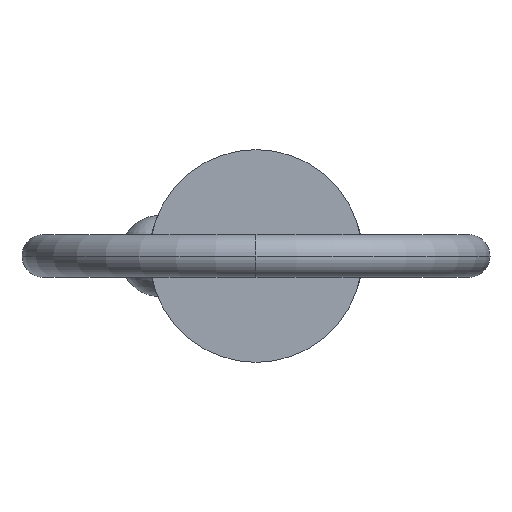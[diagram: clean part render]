
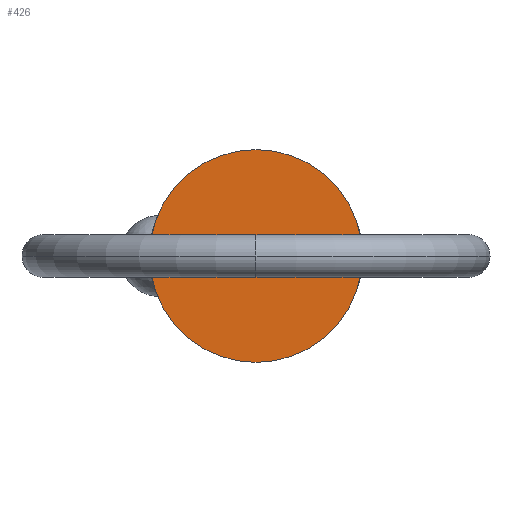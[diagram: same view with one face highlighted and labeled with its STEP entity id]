
A CAD part, left-side view. The second image highlights one B-rep face of the part: STEP entity #426.
In plain terms, the highlighted planar face has unit normal (-1, 0, 0).
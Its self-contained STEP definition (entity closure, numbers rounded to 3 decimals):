
#2 = AXIS2_PLACEMENT_3D ( 'NONE', #799, #731, #676 ) ;
#13 = FACE_OUTER_BOUND ( 'NONE', #421, .T. ) ;
#17 = CIRCLE ( 'NONE', #579, 9.525 ) ;
#32 = CARTESIAN_POINT ( 'NONE',  ( 0., 0., -9.525 ) ) ;
#196 = CARTESIAN_POINT ( 'NONE',  ( 0., 0., 9.525 ) ) ;
#202 = EDGE_CURVE ( 'NONE', #574, #206, #17, .T. ) ;
#206 = VERTEX_POINT ( 'NONE', #196 ) ;
#256 = EDGE_CURVE ( 'NONE', #206, #574, #743, .T. ) ;
#390 = AXIS2_PLACEMENT_3D ( 'NONE', #438, #786, #718 ) ;
#404 = CARTESIAN_POINT ( 'NONE',  ( 0., 0., 0. ) ) ;
#421 = EDGE_LOOP ( 'NONE', ( #624, #518 ) ) ;
#426 = ADVANCED_FACE ( 'NONE', ( #13 ), #588, .T. ) ;
#438 = CARTESIAN_POINT ( 'NONE',  ( 0., 0., 0. ) ) ;
#518 = ORIENTED_EDGE ( 'NONE', *, *, #256, .F. ) ;
#574 = VERTEX_POINT ( 'NONE', #32 ) ;
#579 = AXIS2_PLACEMENT_3D ( 'NONE', #404, #765, #613 ) ;
#588 = PLANE ( 'NONE',  #2 ) ;
#613 = DIRECTION ( 'NONE',  ( 0., 0., -1. ) ) ;
#624 = ORIENTED_EDGE ( 'NONE', *, *, #202, .F. ) ;
#676 = DIRECTION ( 'NONE',  ( 0., 0., 1. ) ) ;
#718 = DIRECTION ( 'NONE',  ( 0., 0., -1. ) ) ;
#731 = DIRECTION ( 'NONE',  ( -1., 0., 0. ) ) ;
#743 = CIRCLE ( 'NONE', #390, 9.525 ) ;
#765 = DIRECTION ( 'NONE',  ( 1., 0., 0. ) ) ;
#786 = DIRECTION ( 'NONE',  ( 1., 0., 0. ) ) ;
#799 = CARTESIAN_POINT ( 'NONE',  ( 0., 0., 0. ) ) ;
